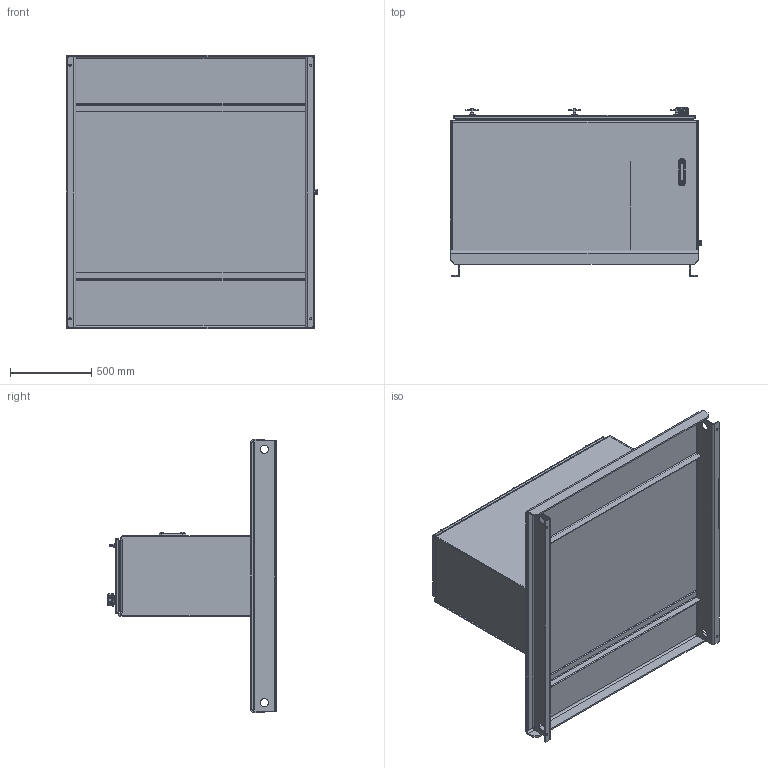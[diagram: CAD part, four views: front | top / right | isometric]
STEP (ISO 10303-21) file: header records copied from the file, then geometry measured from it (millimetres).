
FILE_DESCRIPTION (( 'STEP AP203' ), '1' );
FILE_NAME ('RTP100-HT.STEP', '2015-01-07T19:17:14', ( '' ), ( '' ), 'SwSTEP 2.0', 'SolidWorks 2014', '' );
FILE_SCHEMA (( 'CONFIG_CONTROL_DESIGN' ));
Length unit declared in the file: inch
Products named in the file (1): RTP100-HT
Bounding box: 1543.05 x 1042.22 x 1679.58 mm (x, y, z)
Volume: 51583618.8 mm3; surface area: 17004523.9 mm2
Topology: 61 solids, 239 shells, 3182 faces, 7002 edges, 4251 vertices
Faces by surface type: plane 1328, cylinder 1160, torus 407, bspline 136, cone 96, sphere 55
Entity records: 95407 total; most frequent: CARTESIAN_POINT 24859, DIRECTION 15582, ORIENTED_EDGE 13884, EDGE_CURVE 6942, AXIS2_PLACEMENT_3D 6062, VERTEX_POINT 4233, LINE 3458, VECTOR 3458
